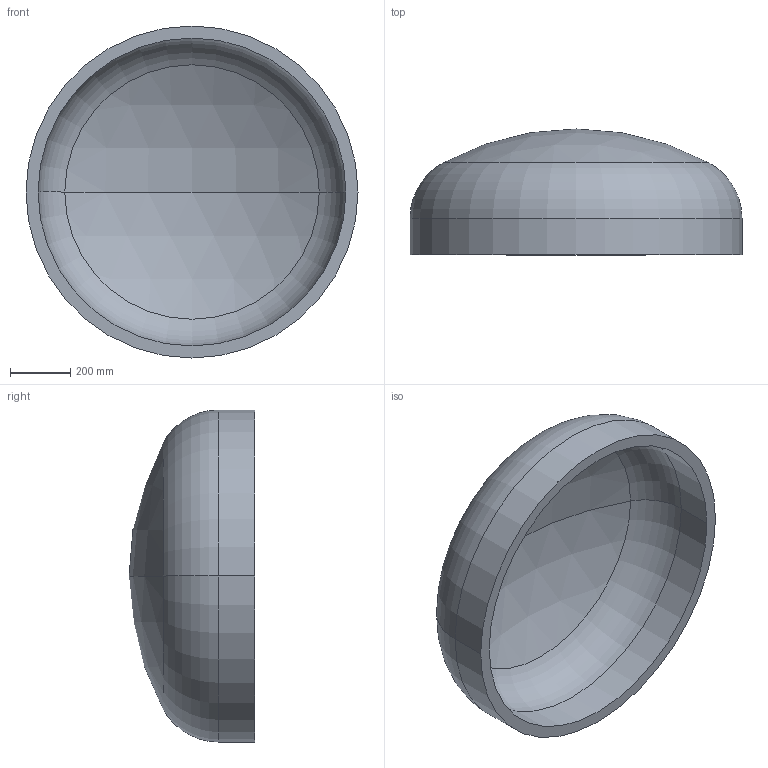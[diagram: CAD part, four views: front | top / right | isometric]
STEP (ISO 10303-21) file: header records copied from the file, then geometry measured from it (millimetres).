
FILE_DESCRIPTION (( 'STEP AP203' ), '1' );
FILE_NAME ('DIN 28013 Korbbogenform_-_Boden DIN 28013 - 1100 x 120 - I - s=40.step', '2016-07-01T09:07:35', ( '' ), ( '' ), 'SwSTEP 2.0', 'SolidWorks 2013', '' );
FILE_SCHEMA (( 'CONFIG_CONTROL_DESIGN' ));
Length unit declared in the file: millimetre
Products named in the file (1): DIN 28013 Korbbogenform_-_Boden DIN 28013 - 1100 x 120 - I - s=40
Bounding box: 1100 x 416.7 x 1100 mm (x, y, z)
Volume: 66238060 mm3; surface area: 3448456.7 mm2
Topology: 1 solids, 1 shells, 13 faces, 24 edges, 14 vertices
Faces by surface type: torus 4, cylinder 4, sphere 4, plane 1
Entity records: 407 total; most frequent: DIRECTION 72, CARTESIAN_POINT 52, ORIENTED_EDGE 48, AXIS2_PLACEMENT_3D 34, EDGE_CURVE 24, CIRCLE 20, VERTEX_POINT 14, EDGE_LOOP 14
